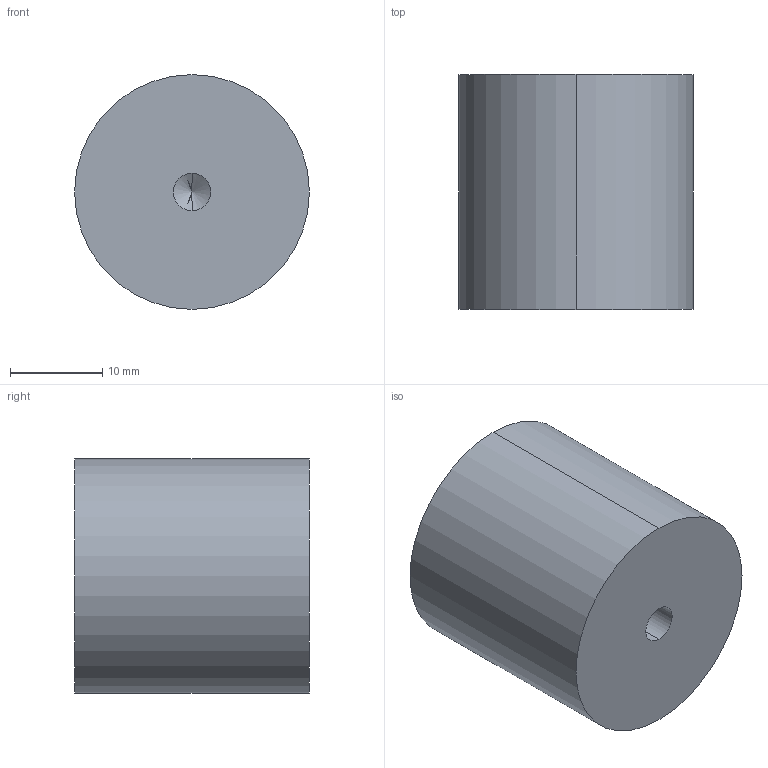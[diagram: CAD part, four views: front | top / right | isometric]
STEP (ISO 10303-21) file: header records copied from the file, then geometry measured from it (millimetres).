
FILE_DESCRIPTION (( 'STEP AP214' ), '1' );
FILE_NAME ('SS1432-50KG-F-F.STEP', '2024-09-04T15:55:35', ( '' ), ( '' ), 'SwSTEP 2.0', 'SolidWorks 2008', '' );
FILE_SCHEMA (( 'AUTOMOTIVE_DESIGN' ));
Length unit declared in the file: inch
Products named in the file (1): SS1432-50KG-F-F
Bounding box: 25.4 x 25.4 x 25.4 mm (x, y, z)
Volume: 12736.4 mm3; surface area: 3167 mm2
Topology: 1 solids, 1 shells, 12 faces, 26 edges, 14 vertices
Faces by surface type: cylinder 6, cone 4, plane 2
Entity records: 381 total; most frequent: DIRECTION 60, CARTESIAN_POINT 49, ORIENTED_EDGE 44, AXIS2_PLACEMENT_3D 25, EDGE_CURVE 22, EDGE_LOOP 14, VERTEX_POINT 14, ADVANCED_FACE 12
